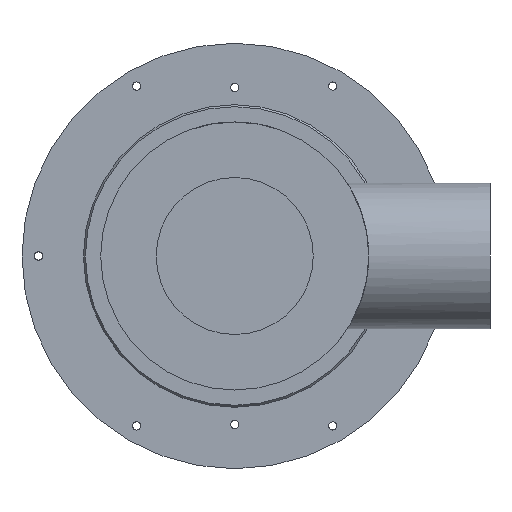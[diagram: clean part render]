
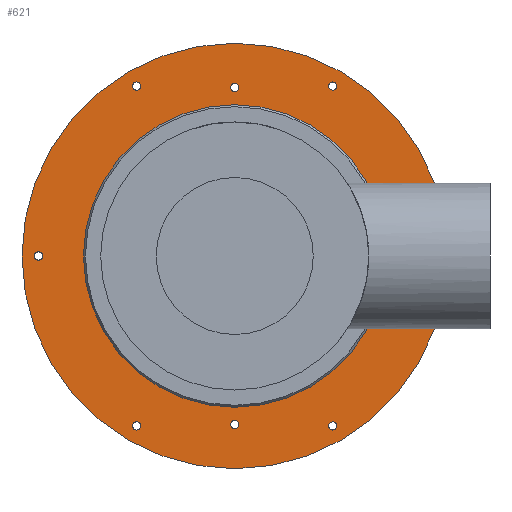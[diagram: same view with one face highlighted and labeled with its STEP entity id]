
A CAD part, front view. The second image highlights one B-rep face of the part: STEP entity #621.
In plain terms, the highlighted planar face has unit normal (0, -1, 0).
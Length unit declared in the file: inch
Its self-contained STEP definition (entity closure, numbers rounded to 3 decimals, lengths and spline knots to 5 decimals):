
#184=CARTESIAN_POINT('',(4.12008,1.15598,0.));
#185=VERTEX_POINT('',#184);
#186=CARTESIAN_POINT('',(4.03543,1.15598,0.));
#187=DIRECTION('',(0.0,1.0,0.0));
#188=DIRECTION('',(-1.0,0.0,0.0));
#189=AXIS2_PLACEMENT_3D('',#186,#187,#188);
#190=CIRCLE('',#189,0.08465);
#191=EDGE_CURVE('',#185,#185,#190,.T.);
#233=CARTESIAN_POINT('',(2.10236,1.15598,3.49478));
#234=VERTEX_POINT('',#233);
#235=CARTESIAN_POINT('',(2.01772,1.15598,3.49478));
#236=DIRECTION('',(0.0,1.0,0.0));
#237=DIRECTION('',(-1.0,0.0,0.0));
#238=AXIS2_PLACEMENT_3D('',#235,#236,#237);
#239=CIRCLE('',#238,0.08465);
#240=EDGE_CURVE('',#234,#234,#239,.T.);
#282=CARTESIAN_POINT('',(0.08465,1.15598,3.46457));
#283=VERTEX_POINT('',#282);
#284=CARTESIAN_POINT('',(0.,1.15598,3.46457));
#285=DIRECTION('',(0.0,1.0,0.0));
#286=DIRECTION('',(-1.0,0.0,0.0));
#287=AXIS2_PLACEMENT_3D('',#284,#285,#286);
#288=CIRCLE('',#287,0.08465);
#289=EDGE_CURVE('',#283,#283,#288,.T.);
#331=CARTESIAN_POINT('',(-1.93307,1.15598,3.49478));
#332=VERTEX_POINT('',#331);
#333=CARTESIAN_POINT('',(-2.01772,1.15598,3.49478));
#334=DIRECTION('',(0.0,1.0,0.0));
#335=DIRECTION('',(-1.0,0.0,0.0));
#336=AXIS2_PLACEMENT_3D('',#333,#334,#335);
#337=CIRCLE('',#336,0.08465);
#338=EDGE_CURVE('',#332,#332,#337,.T.);
#380=CARTESIAN_POINT('',(0.08465,1.15598,-3.46457));
#381=VERTEX_POINT('',#380);
#382=CARTESIAN_POINT('',(0.,1.15598,-3.46457));
#383=DIRECTION('',(0.0,1.0,0.0));
#384=DIRECTION('',(-1.0,0.0,0.0));
#385=AXIS2_PLACEMENT_3D('',#382,#383,#384);
#386=CIRCLE('',#385,0.08465);
#387=EDGE_CURVE('',#381,#381,#386,.T.);
#429=CARTESIAN_POINT('',(-1.93307,1.15598,-3.49478));
#430=VERTEX_POINT('',#429);
#431=CARTESIAN_POINT('',(-2.01772,1.15598,-3.49478));
#432=DIRECTION('',(0.0,1.0,0.0));
#433=DIRECTION('',(-1.0,0.0,0.0));
#434=AXIS2_PLACEMENT_3D('',#431,#432,#433);
#435=CIRCLE('',#434,0.08465);
#436=EDGE_CURVE('',#430,#430,#435,.T.);
#478=CARTESIAN_POINT('',(-3.95079,1.15598,0.));
#479=VERTEX_POINT('',#478);
#480=CARTESIAN_POINT('',(-4.03543,1.15598,0.));
#481=DIRECTION('',(0.0,1.0,0.0));
#482=DIRECTION('',(-1.0,0.0,0.0));
#483=AXIS2_PLACEMENT_3D('',#480,#481,#482);
#484=CIRCLE('',#483,0.08465);
#485=EDGE_CURVE('',#479,#479,#484,.T.);
#527=CARTESIAN_POINT('',(2.10236,1.15598,-3.49478));
#528=VERTEX_POINT('',#527);
#529=CARTESIAN_POINT('',(2.01772,1.15598,-3.49478));
#530=DIRECTION('',(0.0,1.0,0.0));
#531=DIRECTION('',(-1.0,0.0,0.0));
#532=AXIS2_PLACEMENT_3D('',#529,#530,#531);
#533=CIRCLE('',#532,0.08465);
#534=EDGE_CURVE('',#528,#528,#533,.T.);
#555=CARTESIAN_POINT('',(4.375,1.15598,0.));
#556=VERTEX_POINT('',#555);
#557=CARTESIAN_POINT('',(0.0,1.15598,0.0));
#558=DIRECTION('',(0.0,-1.0,0.0));
#559=DIRECTION('',(1.0,0.0,0.0));
#560=AXIS2_PLACEMENT_3D('',#557,#558,#559);
#561=CIRCLE('',#560,4.375);
#562=EDGE_CURVE('',#556,#556,#561,.T.);
#578=CARTESIAN_POINT('',(3.74301,1.15598,0.));
#579=DIRECTION('',(0.0,-1.0,0.0));
#580=DIRECTION('',(0.0,0.0,-1.0));
#581=AXIS2_PLACEMENT_3D('',#578,#579,#580);
#582=PLANE('',#581);
#583=ORIENTED_EDGE('',*,*,#562,.T.);
#584=EDGE_LOOP('',(#583));
#585=FACE_OUTER_BOUND('',#584,.T.);
#586=ORIENTED_EDGE('',*,*,#191,.T.);
#587=EDGE_LOOP('',(#586));
#588=FACE_BOUND('',#587,.T.);
#589=ORIENTED_EDGE('',*,*,#240,.T.);
#590=EDGE_LOOP('',(#589));
#591=FACE_BOUND('',#590,.T.);
#592=ORIENTED_EDGE('',*,*,#289,.T.);
#593=EDGE_LOOP('',(#592));
#594=FACE_BOUND('',#593,.T.);
#595=ORIENTED_EDGE('',*,*,#338,.T.);
#596=EDGE_LOOP('',(#595));
#597=FACE_BOUND('',#596,.T.);
#598=ORIENTED_EDGE('',*,*,#387,.T.);
#599=EDGE_LOOP('',(#598));
#600=FACE_BOUND('',#599,.T.);
#601=ORIENTED_EDGE('',*,*,#436,.T.);
#602=EDGE_LOOP('',(#601));
#603=FACE_BOUND('',#602,.T.);
#604=ORIENTED_EDGE('',*,*,#485,.T.);
#605=EDGE_LOOP('',(#604));
#606=FACE_BOUND('',#605,.T.);
#607=ORIENTED_EDGE('',*,*,#534,.T.);
#608=EDGE_LOOP('',(#607));
#609=FACE_BOUND('',#608,.T.);
#610=CARTESIAN_POINT('',(3.11103,1.15598,0.));
#611=VERTEX_POINT('',#610);
#612=CARTESIAN_POINT('',(0.0,1.15598,0.0));
#613=DIRECTION('',(0.0,-1.0,0.0));
#614=DIRECTION('',(1.0,0.0,0.0));
#615=AXIS2_PLACEMENT_3D('',#612,#613,#614);
#616=CIRCLE('',#615,3.11103);
#617=EDGE_CURVE('',#611,#611,#616,.T.);
#618=ORIENTED_EDGE('',*,*,#617,.F.);
#619=EDGE_LOOP('',(#618));
#620=FACE_BOUND('',#619,.T.);
#621=ADVANCED_FACE('',(#585,#588,#591,#594,#597,#600,#603,#606,#609,#620),#582,.T.);
